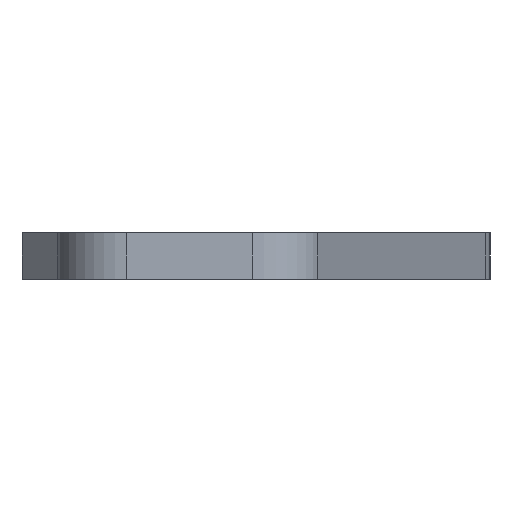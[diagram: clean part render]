
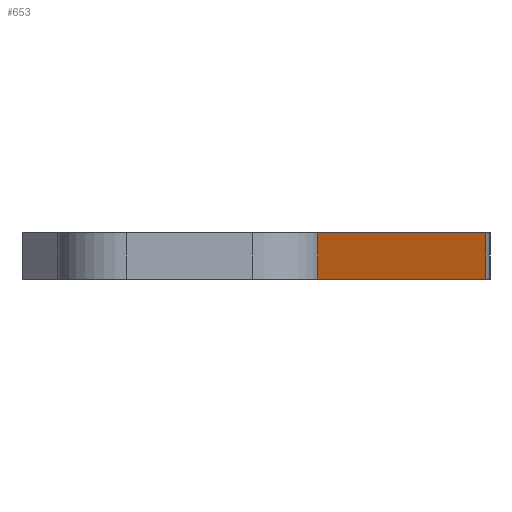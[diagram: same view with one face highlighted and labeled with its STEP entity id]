
A CAD part, left-side view. The second image highlights one B-rep face of the part: STEP entity #653.
In plain terms, the highlighted planar face has unit normal (-0.342, -0.94, 0).
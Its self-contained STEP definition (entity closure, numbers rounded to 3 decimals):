
#27=PLANE('',#742);
#49=FACE_OUTER_BOUND('',#91,.T.);
#91=EDGE_LOOP('',(#525,#526,#527,#528));
#123=LINE('',#988,#187);
#143=LINE('',#1068,#207);
#155=LINE('',#1109,#219);
#157=LINE('',#1112,#221);
#187=VECTOR('',#788,10.);
#207=VECTOR('',#852,10.);
#219=VECTOR('',#888,10.);
#221=VECTOR('',#892,10.);
#284=VERTEX_POINT('',#985);
#285=VERTEX_POINT('',#987);
#322=VERTEX_POINT('',#1065);
#323=VERTEX_POINT('',#1067);
#350=EDGE_CURVE('',#284,#285,#123,.T.);
#390=EDGE_CURVE('',#322,#323,#143,.T.);
#411=EDGE_CURVE('',#323,#284,#155,.T.);
#413=EDGE_CURVE('',#285,#322,#157,.T.);
#525=ORIENTED_EDGE('',*,*,#411,.F.);
#526=ORIENTED_EDGE('',*,*,#390,.F.);
#527=ORIENTED_EDGE('',*,*,#413,.F.);
#528=ORIENTED_EDGE('',*,*,#350,.F.);
#653=ADVANCED_FACE('',(#49),#27,.T.);
#742=AXIS2_PLACEMENT_3D('',#1111,#890,#891);
#788=DIRECTION('',(-0.94,0.342,0.));
#852=DIRECTION('',(0.94,-0.342,0.));
#888=DIRECTION('',(0.,0.,-1.));
#890=DIRECTION('center_axis',(-0.342,-0.94,0.));
#891=DIRECTION('ref_axis',(0.94,-0.342,0.));
#892=DIRECTION('',(0.,0.,1.));
#985=CARTESIAN_POINT('',(-102.848,-18.138,-2.));
#987=CARTESIAN_POINT('',(-142.552,-3.687,-2.));
#988=CARTESIAN_POINT('',(-82.18,-25.66,-2.));
#1065=CARTESIAN_POINT('',(-142.552,-3.687,2.));
#1067=CARTESIAN_POINT('',(-102.848,-18.138,2.));
#1068=CARTESIAN_POINT('',(-82.18,-25.66,2.));
#1109=CARTESIAN_POINT('',(-102.848,-18.138,0.));
#1111=CARTESIAN_POINT('Origin',(-146.5,-2.25,0.));
#1112=CARTESIAN_POINT('',(-142.552,-3.687,0.));
